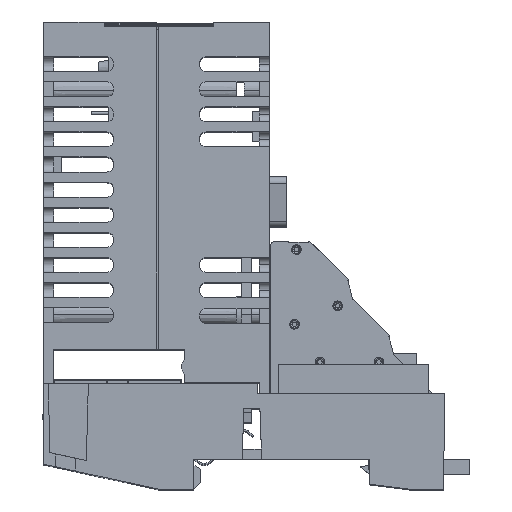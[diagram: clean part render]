
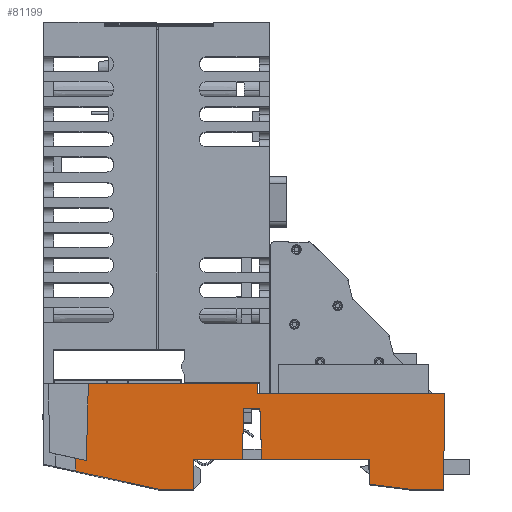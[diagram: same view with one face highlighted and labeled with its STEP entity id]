
A CAD part, top view. The second image highlights one B-rep face of the part: STEP entity #81199.
In plain terms, the highlighted planar face has unit normal (0, -0.009, 1).
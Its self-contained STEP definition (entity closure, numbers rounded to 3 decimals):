
#771 = EDGE_CURVE ( 'NONE', #78550, #39998, #39650, .T. ) ;
#900 = VECTOR ( 'NONE', #28151, 1000. ) ;
#981 = VERTEX_POINT ( 'NONE', #78267 ) ;
#1192 = LINE ( 'NONE', #19807, #54299 ) ;
#2163 = CARTESIAN_POINT ( 'NONE',  ( 43.2, -5., 48.956 ) ) ;
#2173 = EDGE_CURVE ( 'NONE', #40460, #42061, #26528, .T. ) ;
#3102 = EDGE_LOOP ( 'NONE', ( #41080, #43105, #11662, #48979, #64763, #17864, #63856, #34508, #29811, #40029, #14544, #49943, #11198, #70673, #68711, #49811, #67450, #79721 ) ) ;
#3539 = DIRECTION ( 'NONE',  ( 0.009, 1., 0.009 ) ) ;
#8548 = CARTESIAN_POINT ( 'NONE',  ( 30.052, -15., 48.869 ) ) ;
#9587 = VECTOR ( 'NONE', #31009, 1000. ) ;
#10561 = CARTESIAN_POINT ( 'NONE',  ( 42.707, -0.855, 48.993 ) ) ;
#11198 = ORIENTED_EDGE ( 'NONE', *, *, #62136, .T. ) ;
#11601 = AXIS2_PLACEMENT_3D ( 'NONE', #18983, #46304, #26420 ) ;
#11662 = ORIENTED_EDGE ( 'NONE', *, *, #2173, .T. ) ;
#12056 = VECTOR ( 'NONE', #13776, 1000. ) ;
#12194 = PLANE ( 'NONE',  #11601 ) ;
#12402 = LINE ( 'NONE', #70468, #66651 ) ;
#13776 = DIRECTION ( 'NONE',  ( 1., 0., 0. ) ) ;
#14544 = ORIENTED_EDGE ( 'NONE', *, *, #48769, .T. ) ;
#15055 = CARTESIAN_POINT ( 'NONE',  ( 40.126, -1.401, 48.988 ) ) ;
#15207 = EDGE_CURVE ( 'NONE', #73178, #41071, #17278, .T. ) ;
#16178 = VECTOR ( 'NONE', #84915, 1000. ) ;
#16305 = EDGE_CURVE ( 'NONE', #55714, #40460, #50964, .T. ) ;
#16611 = LINE ( 'NONE', #74882, #69778 ) ;
#16919 = EDGE_CURVE ( 'NONE', #88038, #64927, #65781, .T. ) ;
#17278 = LINE ( 'NONE', #50267, #16178 ) ;
#17649 = CARTESIAN_POINT ( 'NONE',  ( 6.5, 0., 49. ) ) ;
#17864 = ORIENTED_EDGE ( 'NONE', *, *, #67851, .T. ) ;
#18654 = DIRECTION ( 'NONE',  ( 0.977, -0.212, -0.002 ) ) ;
#18819 = CARTESIAN_POINT ( 'NONE',  ( 6.5, -14.855, 48.87 ) ) ;
#18954 = LINE ( 'NONE', #15055, #900 ) ;
#18983 = CARTESIAN_POINT ( 'NONE',  ( 0., 0., 49. ) ) ;
#19023 = DIRECTION ( 'NONE',  ( 0.977, -0.212, -0.002 ) ) ;
#19807 = CARTESIAN_POINT ( 'NONE',  ( 79.994, -0.698, 48.994 ) ) ;
#20197 = LINE ( 'NONE', #79747, #80967 ) ;
#25777 = LINE ( 'NONE', #57869, #61913 ) ;
#26420 = DIRECTION ( 'NONE',  ( 0., -1., -0.009 ) ) ;
#26528 = LINE ( 'NONE', #60318, #32944 ) ;
#26589 = EDGE_CURVE ( 'NONE', #88038, #30589, #16611, .T. ) ;
#27725 = CARTESIAN_POINT ( 'NONE',  ( 80., -2., 48.983 ) ) ;
#27859 = VECTOR ( 'NONE', #64325, 1000. ) ;
#28151 = DIRECTION ( 'NONE',  ( 0.035, 0.999, 0.009 ) ) ;
#28888 = CARTESIAN_POINT ( 'NONE',  ( 42.717, -2., 48.983 ) ) ;
#29811 = ORIENTED_EDGE ( 'NONE', *, *, #26589, .T. ) ;
#30023 = EDGE_CURVE ( 'NONE', #981, #64927, #18954, .T. ) ;
#30474 = CARTESIAN_POINT ( 'NONE',  ( 0., -15., 48.869 ) ) ;
#30589 = VERTEX_POINT ( 'NONE', #64437 ) ;
#30694 = EDGE_CURVE ( 'NONE', #55714, #84019, #63412, .T. ) ;
#30873 = DIRECTION ( 'NONE',  ( 1., 0., 0. ) ) ;
#31009 = DIRECTION ( 'NONE',  ( 0., -1., -0.009 ) ) ;
#31924 = EDGE_CURVE ( 'NONE', #68895, #47853, #47231, .T. ) ;
#32718 = CARTESIAN_POINT ( 'NONE',  ( 0., -5., 48.956 ) ) ;
#32944 = VECTOR ( 'NONE', #19023, 1000. ) ;
#34508 = ORIENTED_EDGE ( 'NONE', *, *, #16919, .F. ) ;
#37461 = EDGE_CURVE ( 'NONE', #47404, #39998, #1192, .T. ) ;
#37708 = CARTESIAN_POINT ( 'NONE',  ( 6.5, -17.413, 48.848 ) ) ;
#39487 = CARTESIAN_POINT ( 'NONE',  ( 8.599, -15.311, 48.866 ) ) ;
#39650 = LINE ( 'NONE', #27725, #12056 ) ;
#39954 = VECTOR ( 'NONE', #84098, 1000. ) ;
#39998 = VERTEX_POINT ( 'NONE', #83897 ) ;
#40029 = ORIENTED_EDGE ( 'NONE', *, *, #80347, .T. ) ;
#40454 = DIRECTION ( 'NONE',  ( 0.992, -0.124, -0.001 ) ) ;
#40460 = VERTEX_POINT ( 'NONE', #37708 ) ;
#40875 = VERTEX_POINT ( 'NONE', #8548 ) ;
#41071 = VERTEX_POINT ( 'NONE', #45282 ) ;
#41080 = ORIENTED_EDGE ( 'NONE', *, *, #30694, .F. ) ;
#42061 = VERTEX_POINT ( 'NONE', #45708 ) ;
#43105 = ORIENTED_EDGE ( 'NONE', *, *, #16305, .T. ) ;
#43156 = EDGE_CURVE ( 'NONE', #41071, #84019, #71600, .T. ) ;
#43617 = CARTESIAN_POINT ( 'NONE',  ( 30., -21., 48.817 ) ) ;
#45282 = CARTESIAN_POINT ( 'NONE',  ( 9., 0., 49. ) ) ;
#45301 = EDGE_CURVE ( 'NONE', #78124, #40875, #25777, .T. ) ;
#45652 = LINE ( 'NONE', #10561, #76649 ) ;
#45708 = CARTESIAN_POINT ( 'NONE',  ( 23., -21., 48.817 ) ) ;
#46304 = DIRECTION ( 'NONE',  ( 0., -0.009, 1. ) ) ;
#47231 = LINE ( 'NONE', #60659, #70662 ) ;
#47404 = VERTEX_POINT ( 'NONE', #82962 ) ;
#47809 = CARTESIAN_POINT ( 'NONE',  ( 40., -5., 48.956 ) ) ;
#47853 = VERTEX_POINT ( 'NONE', #55351 ) ;
#48769 = EDGE_CURVE ( 'NONE', #61952, #68895, #20197, .T. ) ;
#48979 = ORIENTED_EDGE ( 'NONE', *, *, #86204, .T. ) ;
#49811 = ORIENTED_EDGE ( 'NONE', *, *, #55655, .T. ) ;
#49943 = ORIENTED_EDGE ( 'NONE', *, *, #31924, .T. ) ;
#50035 = CARTESIAN_POINT ( 'NONE',  ( 0., -21., 48.817 ) ) ;
#50267 = CARTESIAN_POINT ( 'NONE',  ( 0., 0., 49. ) ) ;
#50331 = CARTESIAN_POINT ( 'NONE',  ( 64.948, -15., 48.869 ) ) ;
#50964 = LINE ( 'NONE', #17649, #9587 ) ;
#52234 = CARTESIAN_POINT ( 'NONE',  ( -2.79, -12.835, 48.888 ) ) ;
#54051 = VECTOR ( 'NONE', #57216, 1000. ) ;
#54299 = VECTOR ( 'NONE', #61091, 1000. ) ;
#55351 = CARTESIAN_POINT ( 'NONE',  ( 73., -21., 48.817 ) ) ;
#55655 = EDGE_CURVE ( 'NONE', #78550, #73178, #45652, .T. ) ;
#55714 = VERTEX_POINT ( 'NONE', #18819 ) ;
#56985 = LINE ( 'NONE', #63110, #65564 ) ;
#57216 = DIRECTION ( 'NONE',  ( 1., 0., 0. ) ) ;
#57869 = CARTESIAN_POINT ( 'NONE',  ( 30.181, -0.263, 48.998 ) ) ;
#57998 = LINE ( 'NONE', #50035, #39954 ) ;
#58059 = DIRECTION ( 'NONE',  ( -0.009, 1., 0.009 ) ) ;
#58611 = DIRECTION ( 'NONE',  ( 1., 0., 0. ) ) ;
#60318 = CARTESIAN_POINT ( 'NONE',  ( -3.322, -15.278, 48.867 ) ) ;
#60659 = CARTESIAN_POINT ( 'NONE',  ( -1.462, -11.692, 48.898 ) ) ;
#61091 = DIRECTION ( 'NONE',  ( 0.009, 1., 0.009 ) ) ;
#61913 = VECTOR ( 'NONE', #3539, 1000. ) ;
#61952 = VERTEX_POINT ( 'NONE', #50331 ) ;
#62136 = EDGE_CURVE ( 'NONE', #47853, #47404, #57998, .T. ) ;
#62474 = VECTOR ( 'NONE', #65726, 1000. ) ;
#63110 = CARTESIAN_POINT ( 'NONE',  ( 0., -15., 48.869 ) ) ;
#63412 = LINE ( 'NONE', #52234, #84803 ) ;
#63576 = LINE ( 'NONE', #30474, #54051 ) ;
#63856 = ORIENTED_EDGE ( 'NONE', *, *, #30023, .T. ) ;
#64325 = DIRECTION ( 'NONE',  ( -0.026, -1., -0.009 ) ) ;
#64437 = CARTESIAN_POINT ( 'NONE',  ( 43.549, -15., 48.869 ) ) ;
#64763 = ORIENTED_EDGE ( 'NONE', *, *, #45301, .T. ) ;
#64927 = VERTEX_POINT ( 'NONE', #47809 ) ;
#65564 = VECTOR ( 'NONE', #58611, 1000. ) ;
#65726 = DIRECTION ( 'NONE',  ( -1., 0., 0. ) ) ;
#65781 = LINE ( 'NONE', #32718, #62474 ) ;
#66651 = VECTOR ( 'NONE', #30873, 1000. ) ;
#67450 = ORIENTED_EDGE ( 'NONE', *, *, #15207, .T. ) ;
#67851 = EDGE_CURVE ( 'NONE', #40875, #981, #63576, .T. ) ;
#67997 = DIRECTION ( 'NONE',  ( 0.035, -0.999, -0.009 ) ) ;
#68711 = ORIENTED_EDGE ( 'NONE', *, *, #771, .F. ) ;
#68895 = VERTEX_POINT ( 'NONE', #70175 ) ;
#69778 = VECTOR ( 'NONE', #67997, 1000. ) ;
#70175 = CARTESIAN_POINT ( 'NONE',  ( 64.991, -19.999, 48.825 ) ) ;
#70468 = CARTESIAN_POINT ( 'NONE',  ( 0., -21., 48.817 ) ) ;
#70662 = VECTOR ( 'NONE', #40454, 1000. ) ;
#70673 = ORIENTED_EDGE ( 'NONE', *, *, #37461, .T. ) ;
#71600 = LINE ( 'NONE', #84402, #27859 ) ;
#73096 = CARTESIAN_POINT ( 'NONE',  ( 42.7, 0., 49. ) ) ;
#73178 = VERTEX_POINT ( 'NONE', #73096 ) ;
#74882 = CARTESIAN_POINT ( 'NONE',  ( 42.973, 1.501, 49.013 ) ) ;
#76649 = VECTOR ( 'NONE', #58059, 1000. ) ;
#78124 = VERTEX_POINT ( 'NONE', #43617 ) ;
#78267 = CARTESIAN_POINT ( 'NONE',  ( 39.651, -15., 48.869 ) ) ;
#78550 = VERTEX_POINT ( 'NONE', #28888 ) ;
#79721 = ORIENTED_EDGE ( 'NONE', *, *, #43156, .T. ) ;
#79747 = CARTESIAN_POINT ( 'NONE',  ( 64.812, 0.566, 49.005 ) ) ;
#80347 = EDGE_CURVE ( 'NONE', #30589, #61952, #56985, .T. ) ;
#80967 = VECTOR ( 'NONE', #86309, 1000. ) ;
#81199 = ADVANCED_FACE ( 'NONE', ( #84602 ), #12194, .T. ) ;
#82962 = CARTESIAN_POINT ( 'NONE',  ( 79.817, -21., 48.817 ) ) ;
#83897 = CARTESIAN_POINT ( 'NONE',  ( 79.983, -2., 48.983 ) ) ;
#84019 = VERTEX_POINT ( 'NONE', #39487 ) ;
#84098 = DIRECTION ( 'NONE',  ( 1., 0., 0. ) ) ;
#84402 = CARTESIAN_POINT ( 'NONE',  ( 8.994, -0.235, 48.998 ) ) ;
#84602 = FACE_OUTER_BOUND ( 'NONE', #3102, .T. ) ;
#84803 = VECTOR ( 'NONE', #18654, 1000. ) ;
#84915 = DIRECTION ( 'NONE',  ( -1., 0., 0. ) ) ;
#86204 = EDGE_CURVE ( 'NONE', #42061, #78124, #12402, .T. ) ;
#86309 = DIRECTION ( 'NONE',  ( 0.009, -1., -0.009 ) ) ;
#88038 = VERTEX_POINT ( 'NONE', #2163 ) ;
